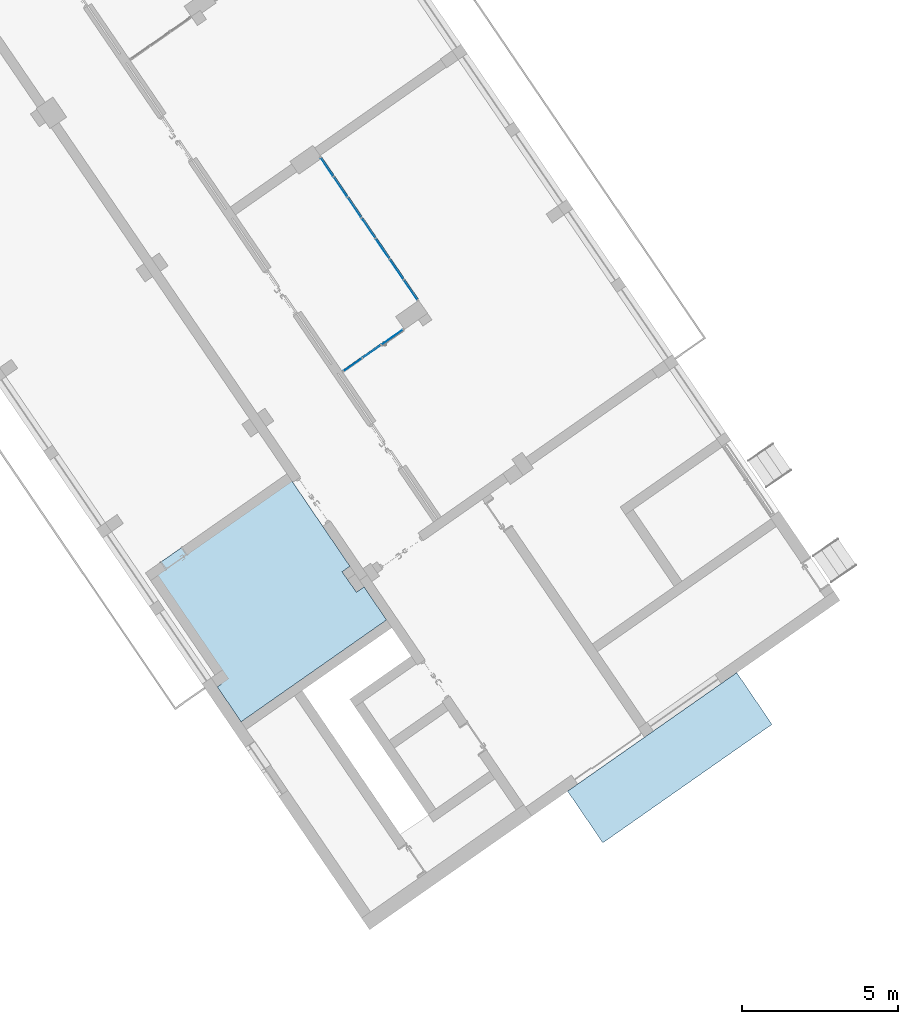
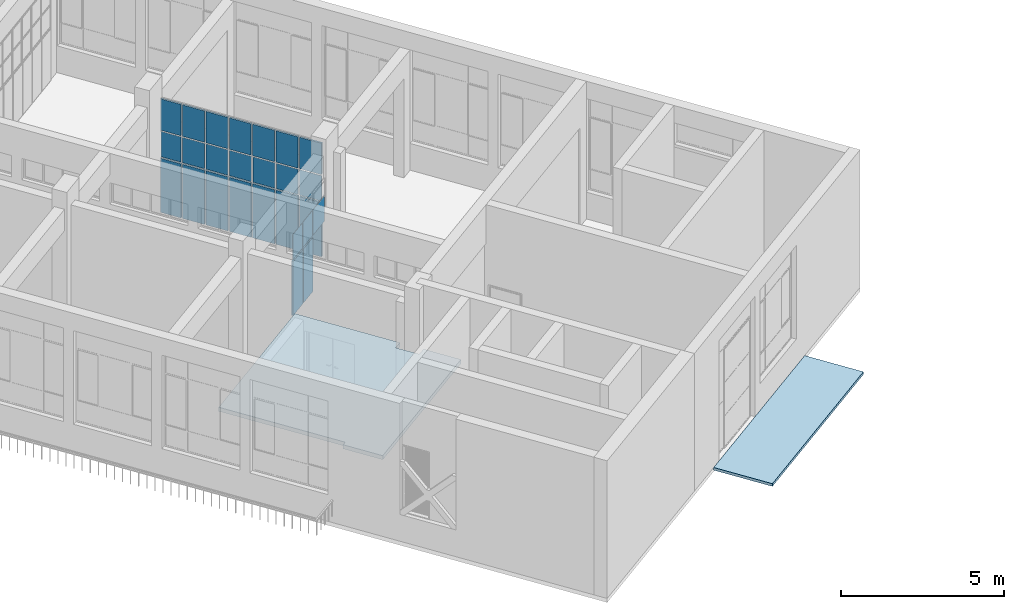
# One storey, part 42 of 157: 26 plates, 2 slabs, 2 elements without a shape of their own.
"""IFC2X3 building model written with IfcOpenShell, lengths in millimetres."""

from ifc_helpers import new_model, entity, si_unit, converted_unit, derived_unit, direction, frame, frame_2d, origin, origin_2d_with_axis, place, context, subcontext, project, spatial, polyline, rectangle, outline, extrude, source, transform, mapped, material, layer, layer_set, layer_usage, type_object, type_shapes, element, aggregate, save


model = new_model("IFC2X3")

# Units and contexts
model_context = context("Model", 3, precision=0.01, world=origin(), true_north=direction((6.123031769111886e-17, 1.0)))
body_context = subcontext(model_context, "Body", "Model", "MODEL_VIEW")
ifc_project = project(units=[si_unit("LENGTHUNIT", "METRE", prefix="MILLI"), si_unit("AREAUNIT", "SQUARE_METRE"), si_unit("VOLUMEUNIT", "CUBIC_METRE"), converted_unit("PLANEANGLEUNIT", "DEGREE", entity("IfcRatioMeasure", 0.017453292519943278), si_unit("PLANEANGLEUNIT", "RADIAN"), dimensions=[0, 0, 0, 0, 0, 0, 0]), si_unit("MASSUNIT", "GRAM", prefix="KILO"), derived_unit("MASSDENSITYUNIT", [(si_unit("MASSUNIT", "GRAM", prefix="KILO"), 1), (si_unit("LENGTHUNIT", "METRE"), -3)]), derived_unit("MOMENTOFINERTIAUNIT", [(si_unit("LENGTHUNIT", "METRE"), 4)]), si_unit("TIMEUNIT", "SECOND"), si_unit("FREQUENCYUNIT", "HERTZ"), si_unit("THERMODYNAMICTEMPERATUREUNIT", "DEGREE_CELSIUS"), derived_unit("THERMALTRANSMITTANCEUNIT", [(si_unit("MASSUNIT", "GRAM", prefix="KILO"), 1), (si_unit("THERMODYNAMICTEMPERATUREUNIT", "KELVIN"), -1), (si_unit("TIMEUNIT", "SECOND"), -3)]), derived_unit("THERMALCONDUCTANCEUNIT", [(si_unit("MASSUNIT", "GRAM", prefix="KILO"), 1), (si_unit("LENGTHUNIT", "METRE"), 1), (si_unit("THERMODYNAMICTEMPERATUREUNIT", "KELVIN"), -1), (si_unit("TIMEUNIT", "SECOND"), -3)]), derived_unit("VOLUMETRICFLOWRATEUNIT", [(si_unit("LENGTHUNIT", "METRE"), 3), (si_unit("TIMEUNIT", "SECOND"), -1)]), derived_unit("MASSFLOWRATEUNIT", [(si_unit("MASSUNIT", "GRAM", prefix="KILO"), 1), (si_unit("TIMEUNIT", "SECOND"), -1)]), derived_unit("ROTATIONALFREQUENCYUNIT", [(si_unit("TIMEUNIT", "SECOND"), -1)]), si_unit("ELECTRICCURRENTUNIT", "AMPERE"), si_unit("ELECTRICVOLTAGEUNIT", "VOLT"), si_unit("POWERUNIT", "WATT"), converted_unit("FORCEUNIT", "KIP", entity("IfcRatioMeasure", 2.088543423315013e-05), si_unit("FORCEUNIT", "NEWTON"), dimensions=[1, 1, -2, 0, 0, 0, 0]), si_unit("ILLUMINANCEUNIT", "LUX"), si_unit("LUMINOUSFLUXUNIT", "LUMEN"), si_unit("LUMINOUSINTENSITYUNIT", "CANDELA"), derived_unit("USERDEFINED", [(si_unit("MASSUNIT", "GRAM", prefix="KILO"), -1), (si_unit("LENGTHUNIT", "METRE"), -2), (si_unit("TIMEUNIT", "SECOND"), 3), (si_unit("LUMINOUSFLUXUNIT", "LUMEN"), 1)]), derived_unit("USERDEFINED", [(si_unit("MASSUNIT", "GRAM", prefix="KILO"), 1), (si_unit("LENGTHUNIT", "METRE"), 3), (si_unit("TIMEUNIT", "SECOND"), -3), (si_unit("ELECTRICCURRENTUNIT", "AMPERE"), -2)]), derived_unit("USERDEFINED", [(si_unit("LENGTHUNIT", "METRE"), 2), (si_unit("TIMEUNIT", "SECOND"), -2)]), derived_unit("SOUNDPOWERUNIT", [(si_unit("MASSUNIT", "GRAM", prefix="KILO"), 1), (si_unit("LENGTHUNIT", "METRE"), 2), (si_unit("TIMEUNIT", "SECOND"), -3)]), derived_unit("SOUNDPRESSUREUNIT", [(si_unit("MASSUNIT", "GRAM", prefix="KILO"), 1), (si_unit("LENGTHUNIT", "METRE"), -1), (si_unit("TIMEUNIT", "SECOND"), -2)]), derived_unit("LINEARVELOCITYUNIT", [(si_unit("LENGTHUNIT", "METRE"), 1), (si_unit("TIMEUNIT", "SECOND"), -1)]), si_unit("PRESSUREUNIT", "PASCAL"), derived_unit("USERDEFINED", [(si_unit("LENGTHUNIT", "METRE"), -2), (si_unit("MASSUNIT", "GRAM", prefix="KILO"), 1), (si_unit("TIMEUNIT", "SECOND"), -2)]), derived_unit("LINEARFORCEUNIT", [(si_unit("MASSUNIT", "GRAM", prefix="KILO"), 1), (si_unit("LENGTHUNIT", "METRE"), 1), (si_unit("TIMEUNIT", "SECOND"), -2), (si_unit("LENGTHUNIT", "METRE"), -1)]), derived_unit("PLANARFORCEUNIT", [(si_unit("MASSUNIT", "GRAM", prefix="KILO"), 1), (si_unit("LENGTHUNIT", "METRE"), 1), (si_unit("TIMEUNIT", "SECOND"), -2), (si_unit("LENGTHUNIT", "METRE"), -2)]), derived_unit("SPECIFICHEATCAPACITYUNIT", [(si_unit("LENGTHUNIT", "METRE"), 2), (si_unit("TIMEUNIT", "SECOND"), -2), (si_unit("THERMODYNAMICTEMPERATUREUNIT", "KELVIN"), -1)]), derived_unit("VAPORPERMEABILITYUNIT", [(si_unit("TIMEUNIT", "SECOND"), 1), (si_unit("LENGTHUNIT", "METRE"), -1)]), derived_unit("DYNAMICVISCOSITYUNIT", [(si_unit("MASSUNIT", "GRAM", prefix="KILO"), 1), (si_unit("LENGTHUNIT", "METRE"), -1), (si_unit("TIMEUNIT", "SECOND"), -1)]), derived_unit("THERMALEXPANSIONCOEFFICIENTUNIT", [(si_unit("THERMODYNAMICTEMPERATUREUNIT", "KELVIN"), -1)])], contexts=[model_context])

# Site, building, storey
site_placement = place(None, frame((0.0, 0.0, 0.0), z_axis=(0.0, 0.0, 1.0), x_axis=(0.8191520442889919, 0.5735764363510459, 0.0)))
site = spatial("IfcSite", under=ifc_project, at=site_placement, Name="Default", CompositionType="ELEMENT")
building_placement = place(site_placement, origin())
building = spatial("IfcBuilding", under=site, at=building_placement, CompositionType="ELEMENT")
storey_placement = place(building_placement, origin())
storey = spatial("IfcBuildingStorey", under=building, at=storey_placement, Name="1.EG +0.00", CompositionType="ELEMENT", Elevation=-4.331468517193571e-12)

# Curtain wall, plates
curtain_wall_type = type_object("IfcCurtainWallType", Name="Curtain Wall:Curtain_Wall_CJC_Int5", PredefinedType="NOTDEFINED")
curtain_wall_1_placement = place(storey_placement, origin())
curtain_wall_1 = element("IfcCurtainWall", 1, at=curtain_wall_1_placement, inside=storey, type_object=curtain_wall_type, Name="Curtain Wall:Curtain_Wall_CJC_Int5", ObjectType="Curtain Wall:Curtain_Wall_CJC_Int5")
ifc_material_1 = material(Name="Default")
plate_type_1 = type_object("IfcPlateType", Name="System Panel:Solid", PredefinedType="CURTAIN_PANEL", material=ifc_material_1)
shared_shape_1 = source(origin(), body_context, "Body", "SweptSolid", [
    extrude(rectangle(XDim=2024.9999999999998, YDim=746.4297457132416, at=frame_2d((20.83333333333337, -8.526512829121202e-14), x_axis=(1.0, 0.0))), frame((0.0, -44.44999999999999, 991.6666666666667), z_axis=(0.0, 1.0, 0.0), x_axis=(0.0, 0.0, 1.0)), (0.0, 0.0, 1.0), 63.5),
])
type_shapes(plate_type_1, [shared_shape_1])
plate_1_placement = place(curtain_wall_1_placement, frame((-211103.34530122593, 68070.02240541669, 50.0), z_axis=(0.0, 0.0, 1.0), x_axis=(0.013317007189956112, 0.9999113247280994, 0.0)))
plate_1 = element("IfcPlate", 2, at=plate_1_placement, type_object=plate_type_1, material=ifc_material_1, Name="System Panel:Solid", ObjectType="System Panel:Solid", context=body_context, shape_type="MappedRepresentation", body=[
    mapped(shared_shape_1, transform((0.0, 0.0, 0.0), scale=1.0)),
])
plate_2_placement = place(curtain_wall_1_placement, frame((-211092.73924057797, 68866.38152735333, 50.0), z_axis=(0.0, 0.0, 1.0), x_axis=(0.013317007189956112, 0.9999113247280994, 0.0)))
plate_2 = element("IfcPlate", 3, at=plate_2_placement, type_object=plate_type_1, material=ifc_material_1, Name="System Panel:Solid", ObjectType="System Panel:Solid", context=body_context, shape_type="MappedRepresentation", body=[
    mapped(shared_shape_1, transform((0.0, 0.0, 0.0), scale=1.0)),
])
plate_3_placement = place(curtain_wall_1_placement, frame((-211082.13317993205, 69662.74064913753, 50.0), z_axis=(0.0, 0.0, 1.0), x_axis=(0.013317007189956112, 0.9999113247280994, 0.0)))
plate_3 = element("IfcPlate", 4, at=plate_3_placement, type_object=plate_type_1, material=ifc_material_1, Name="System Panel:Solid", ObjectType="System Panel:Solid", context=body_context, shape_type="MappedRepresentation", body=[
    mapped(shared_shape_1, transform((0.0, 0.0, 0.0), scale=1.0)),
])
plate_4_placement = place(curtain_wall_1_placement, frame((-211071.52711928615, 70459.09977092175, 50.0), z_axis=(0.0, 0.0, 1.0), x_axis=(0.013317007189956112, 0.9999113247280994, 0.0)))
plate_4 = element("IfcPlate", 5, at=plate_4_placement, type_object=plate_type_1, material=ifc_material_1, Name="System Panel:Solid", ObjectType="System Panel:Solid", context=body_context, shape_type="MappedRepresentation", body=[
    mapped(shared_shape_1, transform((0.0, 0.0, 0.0), scale=1.0)),
])
plate_5_placement = place(curtain_wall_1_placement, frame((-211060.9210586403, 71255.45889270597, 50.0), z_axis=(0.0, 0.0, 1.0), x_axis=(0.013317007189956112, 0.9999113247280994, 0.0)))
plate_5 = element("IfcPlate", 6, at=plate_5_placement, type_object=plate_type_1, material=ifc_material_1, Name="System Panel:Solid", ObjectType="System Panel:Solid", context=body_context, shape_type="MappedRepresentation", body=[
    mapped(shared_shape_1, transform((0.0, 0.0, 0.0), scale=1.0)),
])
plate_6_placement = place(curtain_wall_1_placement, frame((-211050.3149979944, 72051.8180144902, 50.0), z_axis=(0.0, 0.0, 1.0), x_axis=(0.013317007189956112, 0.9999113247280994, 0.0)))
plate_6 = element("IfcPlate", 7, at=plate_6_placement, type_object=plate_type_1, material=ifc_material_1, Name="System Panel:Solid", ObjectType="System Panel:Solid", context=body_context, shape_type="MappedRepresentation", body=[
    mapped(shared_shape_1, transform((0.0, 0.0, 0.0), scale=1.0)),
])
plate_type_2 = type_object("IfcPlateType", Name="System Panel:Solid", PredefinedType="CURTAIN_PANEL", material=ifc_material_1)
shared_shape_2 = source(origin(), body_context, "Body", "SweptSolid", [
    extrude(rectangle(XDim=2025.0000000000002, YDim=696.42974571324, at=frame_2d((20.83333333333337, 1.9895196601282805e-13), x_axis=(1.0, 0.0))), frame((0.0, -44.44999999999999, 991.6666666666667), z_axis=(0.0, 1.0, 0.0), x_axis=(0.0, 0.0, 1.0)), (0.0, 0.0, 1.0), 63.5),
])
type_shapes(plate_type_2, [shared_shape_2])
plate_7_placement = place(curtain_wall_1_placement, frame((-211040.04186252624, 72823.17935330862, 50.0), z_axis=(0.0, 0.0, 1.0), x_axis=(0.013317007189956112, 0.9999113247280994, 0.0)))
plate_7 = element("IfcPlate", 8, at=plate_7_placement, type_object=plate_type_2, material=ifc_material_1, Name="System Panel:Solid", ObjectType="System Panel:Solid", context=body_context, shape_type="MappedRepresentation", body=[
    mapped(shared_shape_2, transform((0.0, 0.0, 0.0), scale=1.0)),
])
ifc_material_2 = material(Name="Glass")
plate_type_3 = type_object("IfcPlateType", Name="System Panel:Glazed_CJC", PredefinedType="CURTAIN_PANEL", material=ifc_material_2)
shared_shape_3 = source(origin(), body_context, "Body", "SweptSolid", [
    extrude(rectangle(XDim=10.0, YDim=746.4297457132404, at=frame_2d((0.0, 2.5579538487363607e-13), x_axis=(1.0, 0.0))), frame((0.0, 0.0, 0.0), z_axis=(0.0, 0.0, 1.0), x_axis=(0.0, 1.0, 0.0)), (0.0, 0.0, 1.0), 950.0000000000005),
])
type_shapes(plate_type_3, [shared_shape_3])
plate_8_placement = place(curtain_wall_1_placement, frame((-211103.34530122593, 68070.02240541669, 2125.0), z_axis=(0.0, 0.0, 1.0), x_axis=(0.013317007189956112, 0.9999113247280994, 0.0)))
plate_8 = element("IfcPlate", 9, at=plate_8_placement, type_object=plate_type_3, material=ifc_material_2, Name="System Panel:Glazed_CJC", ObjectType="System Panel:Glazed_CJC", context=body_context, shape_type="MappedRepresentation", body=[
    mapped(shared_shape_3, transform((0.0, 0.0, 0.0), scale=1.0)),
])
plate_9_placement = place(curtain_wall_1_placement, frame((-211092.73924057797, 68866.38152735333, 2125.0), z_axis=(0.0, 0.0, 1.0), x_axis=(0.013317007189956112, 0.9999113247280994, 0.0)))
plate_9 = element("IfcPlate", 10, at=plate_9_placement, type_object=plate_type_3, material=ifc_material_2, Name="System Panel:Glazed_CJC", ObjectType="System Panel:Glazed_CJC", context=body_context, shape_type="MappedRepresentation", body=[
    mapped(shared_shape_3, transform((0.0, 0.0, 0.0), scale=1.0)),
])
plate_10_placement = place(curtain_wall_1_placement, frame((-211082.13317993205, 69662.74064913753, 2125.0), z_axis=(0.0, 0.0, 1.0), x_axis=(0.013317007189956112, 0.9999113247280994, 0.0)))
plate_10 = element("IfcPlate", 11, at=plate_10_placement, type_object=plate_type_3, material=ifc_material_2, Name="System Panel:Glazed_CJC", ObjectType="System Panel:Glazed_CJC", context=body_context, shape_type="MappedRepresentation", body=[
    mapped(shared_shape_3, transform((0.0, 0.0, 0.0), scale=1.0)),
])
plate_11_placement = place(curtain_wall_1_placement, frame((-211071.52711928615, 70459.09977092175, 2125.0), z_axis=(0.0, 0.0, 1.0), x_axis=(0.013317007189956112, 0.9999113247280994, 0.0)))
plate_11 = element("IfcPlate", 12, at=plate_11_placement, type_object=plate_type_3, material=ifc_material_2, Name="System Panel:Glazed_CJC", ObjectType="System Panel:Glazed_CJC", context=body_context, shape_type="MappedRepresentation", body=[
    mapped(shared_shape_3, transform((0.0, 0.0, 0.0), scale=1.0)),
])
plate_12_placement = place(curtain_wall_1_placement, frame((-211060.9210586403, 71255.45889270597, 2125.0), z_axis=(0.0, 0.0, 1.0), x_axis=(0.013317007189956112, 0.9999113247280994, 0.0)))
plate_12 = element("IfcPlate", 13, at=plate_12_placement, type_object=plate_type_3, material=ifc_material_2, Name="System Panel:Glazed_CJC", ObjectType="System Panel:Glazed_CJC", context=body_context, shape_type="MappedRepresentation", body=[
    mapped(shared_shape_3, transform((0.0, 0.0, 0.0), scale=1.0)),
])
plate_13_placement = place(curtain_wall_1_placement, frame((-211050.3149979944, 72051.8180144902, 2125.0), z_axis=(0.0, 0.0, 1.0), x_axis=(0.013317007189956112, 0.9999113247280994, 0.0)))
plate_13 = element("IfcPlate", 14, at=plate_13_placement, type_object=plate_type_3, material=ifc_material_2, Name="System Panel:Glazed_CJC", ObjectType="System Panel:Glazed_CJC", context=body_context, shape_type="MappedRepresentation", body=[
    mapped(shared_shape_3, transform((0.0, 0.0, 0.0), scale=1.0)),
])
plate_type_4 = type_object("IfcPlateType", Name="System Panel:Glazed_CJC", PredefinedType="CURTAIN_PANEL", material=ifc_material_2)
shared_shape_4 = source(origin(), body_context, "Body", "SweptSolid", [
    extrude(rectangle(XDim=10.0, YDim=696.4297457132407, at=frame_2d((0.0, -1.9895196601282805e-13), x_axis=(1.0, 0.0))), frame((0.0, 0.0, 0.0), z_axis=(0.0, 0.0, 1.0), x_axis=(0.0, 1.0, 0.0)), (0.0, 0.0, 1.0), 950.0000000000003),
])
type_shapes(plate_type_4, [shared_shape_4])
plate_14_placement = place(curtain_wall_1_placement, frame((-211040.04186252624, 72823.17935330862, 2125.0), z_axis=(0.0, 0.0, 1.0), x_axis=(0.013317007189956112, 0.9999113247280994, 0.0)))
plate_14 = element("IfcPlate", 15, at=plate_14_placement, type_object=plate_type_4, material=ifc_material_2, Name="System Panel:Glazed_CJC", ObjectType="System Panel:Glazed_CJC", context=body_context, shape_type="MappedRepresentation", body=[
    mapped(shared_shape_4, transform((0.0, 0.0, 0.0), scale=1.0)),
])
plate_type_5 = type_object("IfcPlateType", Name="System Panel:Solid", PredefinedType="CURTAIN_PANEL", material=ifc_material_1)
shared_shape_5 = source(origin(), body_context, "Body", "SweptSolid", [
    extrude(rectangle(XDim=1175.0000000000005, YDim=746.4297457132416, at=frame_2d((20.8333333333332, -8.526512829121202e-14), x_axis=(1.0, 0.0))), frame((0.0, -44.44999999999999, 566.666666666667), z_axis=(0.0, 1.0, 0.0), x_axis=(0.0, 0.0, 1.0)), (0.0, 0.0, 1.0), 63.5),
])
type_shapes(plate_type_5, [shared_shape_5])
plate_15_placement = place(curtain_wall_1_placement, frame((-211103.34530122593, 68070.02240541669, 3125.0), z_axis=(0.0, 0.0, 1.0), x_axis=(0.013317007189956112, 0.9999113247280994, 0.0)))
plate_15 = element("IfcPlate", 16, at=plate_15_placement, type_object=plate_type_5, material=ifc_material_1, Name="System Panel:Solid", ObjectType="System Panel:Solid", context=body_context, shape_type="MappedRepresentation", body=[
    mapped(shared_shape_5, transform((0.0, 0.0, 0.0), scale=1.0)),
])
plate_16_placement = place(curtain_wall_1_placement, frame((-211092.73924057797, 68866.38152735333, 3125.0), z_axis=(0.0, 0.0, 1.0), x_axis=(0.013317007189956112, 0.9999113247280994, 0.0)))
plate_16 = element("IfcPlate", 17, at=plate_16_placement, type_object=plate_type_5, material=ifc_material_1, Name="System Panel:Solid", ObjectType="System Panel:Solid", context=body_context, shape_type="MappedRepresentation", body=[
    mapped(shared_shape_5, transform((0.0, 0.0, 0.0), scale=1.0)),
])
plate_17_placement = place(curtain_wall_1_placement, frame((-211082.13317993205, 69662.74064913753, 3125.0), z_axis=(0.0, 0.0, 1.0), x_axis=(0.013317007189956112, 0.9999113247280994, 0.0)))
plate_17 = element("IfcPlate", 18, at=plate_17_placement, type_object=plate_type_5, material=ifc_material_1, Name="System Panel:Solid", ObjectType="System Panel:Solid", context=body_context, shape_type="MappedRepresentation", body=[
    mapped(shared_shape_5, transform((0.0, 0.0, 0.0), scale=1.0)),
])
plate_18_placement = place(curtain_wall_1_placement, frame((-211071.52711928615, 70459.09977092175, 3125.0), z_axis=(0.0, 0.0, 1.0), x_axis=(0.013317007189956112, 0.9999113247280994, 0.0)))
plate_18 = element("IfcPlate", 19, at=plate_18_placement, type_object=plate_type_5, material=ifc_material_1, Name="System Panel:Solid", ObjectType="System Panel:Solid", context=body_context, shape_type="MappedRepresentation", body=[
    mapped(shared_shape_5, transform((0.0, 0.0, 0.0), scale=1.0)),
])
plate_19_placement = place(curtain_wall_1_placement, frame((-211060.9210586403, 71255.45889270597, 3125.0), z_axis=(0.0, 0.0, 1.0), x_axis=(0.013317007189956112, 0.9999113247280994, 0.0)))
plate_19 = element("IfcPlate", 20, at=plate_19_placement, type_object=plate_type_5, material=ifc_material_1, Name="System Panel:Solid", ObjectType="System Panel:Solid", context=body_context, shape_type="MappedRepresentation", body=[
    mapped(shared_shape_5, transform((0.0, 0.0, 0.0), scale=1.0)),
])
plate_20_placement = place(curtain_wall_1_placement, frame((-211050.3149979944, 72051.8180144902, 3125.0), z_axis=(0.0, 0.0, 1.0), x_axis=(0.013317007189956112, 0.9999113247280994, 0.0)))
plate_20 = element("IfcPlate", 21, at=plate_20_placement, type_object=plate_type_5, material=ifc_material_1, Name="System Panel:Solid", ObjectType="System Panel:Solid", context=body_context, shape_type="MappedRepresentation", body=[
    mapped(shared_shape_5, transform((0.0, 0.0, 0.0), scale=1.0)),
])
plate_type_6 = type_object("IfcPlateType", Name="System Panel:Solid", PredefinedType="CURTAIN_PANEL", material=ifc_material_1)
shared_shape_6 = source(origin(), body_context, "Body", "SweptSolid", [
    extrude(rectangle(XDim=1175.0000000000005, YDim=696.42974571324, at=frame_2d((20.833333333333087, 1.9895196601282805e-13), x_axis=(1.0, 0.0))), frame((0.0, -44.44999999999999, 566.6666666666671), z_axis=(0.0, 1.0, 0.0), x_axis=(0.0, 0.0, 1.0)), (0.0, 0.0, 1.0), 63.5),
])
type_shapes(plate_type_6, [shared_shape_6])
plate_21_placement = place(curtain_wall_1_placement, frame((-211040.04186252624, 72823.17935330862, 3125.0), z_axis=(0.0, 0.0, 1.0), x_axis=(0.013317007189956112, 0.9999113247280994, 0.0)))
plate_21 = element("IfcPlate", 22, at=plate_21_placement, type_object=plate_type_6, material=ifc_material_1, Name="System Panel:Solid", ObjectType="System Panel:Solid", context=body_context, shape_type="MappedRepresentation", body=[
    mapped(shared_shape_6, transform((0.0, 0.0, 0.0), scale=1.0)),
])
aggregate(curtain_wall_1, [plate_1, plate_2, plate_3, plate_4, plate_5, plate_6, plate_7, plate_8, plate_9, plate_10, plate_11, plate_12, plate_13, plate_14, plate_15, plate_16, plate_17, plate_18, plate_19, plate_20, plate_21])

curtain_wall_2_placement = place(storey_placement, origin())
curtain_wall_2 = element("IfcCurtainWall", 23, at=curtain_wall_2_placement, inside=storey, type_object=curtain_wall_type, Name="Curtain Wall:Curtain_Wall_CJC_Int5", ObjectType="Curtain Wall:Curtain_Wall_CJC_Int5")
plate_type_7 = type_object("IfcPlateType", Name="System Panel:Solid", PredefinedType="CURTAIN_PANEL", material=ifc_material_1)
shared_shape_7 = source(origin(), body_context, "Body", "SweptSolid", [
    extrude(rectangle(XDim=2025.0000000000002, YDim=701.0338390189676, at=frame_2d((20.833333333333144, 0.0), x_axis=(1.0, 0.0))), frame((0.0, -19.050000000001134, 991.6666666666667), z_axis=(0.0, 1.0, 0.0), x_axis=(0.0, 0.0, 1.0)), (0.0, 0.0, 1.0), 63.5),
])
type_shapes(plate_type_7, [shared_shape_7])
plate_22_placement = place(curtain_wall_2_placement, frame((-213989.7689333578, 67171.35891435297, 50.0)))
plate_22 = element("IfcPlate", 24, at=plate_22_placement, type_object=plate_type_7, material=ifc_material_1, Name="System Panel:Solid", ObjectType="System Panel:Solid", context=body_context, shape_type="MappedRepresentation", body=[
    mapped(shared_shape_7, transform((0.0, 0.0, 0.0), scale=1.0)),
])
plate_type_8 = type_object("IfcPlateType", Name="System Panel:Solid", PredefinedType="CURTAIN_PANEL", material=ifc_material_1)
shared_shape_8 = source(origin(), body_context, "Body", "SweptSolid", [
    extrude(rectangle(XDim=2024.9999999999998, YDim=677.0676777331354, at=frame_2d((20.833333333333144, 0.0), x_axis=(1.0, 0.0))), frame((0.0, -19.049999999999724, 991.6666666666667), z_axis=(0.0, 1.0, 0.0), x_axis=(0.0, 0.0, 1.0)), (0.0, 0.0, 1.0), 63.5),
])
type_shapes(plate_type_8, [shared_shape_8])
plate_23_placement = place(curtain_wall_2_placement, frame((-213250.71817498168, 67171.35891435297, 50.0)))
plate_23 = element("IfcPlate", 25, at=plate_23_placement, type_object=plate_type_8, material=ifc_material_1, Name="System Panel:Solid", ObjectType="System Panel:Solid", context=body_context, shape_type="MappedRepresentation", body=[
    mapped(shared_shape_8, transform((0.0, 0.0, 0.0), scale=1.0)),
])
plate_type_9 = type_object("IfcPlateType", Name="System Panel:Glazed_CJC", PredefinedType="CURTAIN_PANEL", material=ifc_material_2)
shared_shape_9 = source(origin(), body_context, "Body", "SweptSolid", [
    extrude(rectangle(XDim=10.0, YDim=701.0338390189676, at=origin_2d_with_axis()), frame((0.0, 0.0, 0.0), z_axis=(0.0, 0.0, 1.0), x_axis=(0.0, 1.0, 0.0)), (0.0, 0.0, 1.0), 950.0000000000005),
])
type_shapes(plate_type_9, [shared_shape_9])
plate_24_placement = place(curtain_wall_2_placement, frame((-213989.7689333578, 67171.35891435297, 2125.0)))
plate_24 = element("IfcPlate", 26, at=plate_24_placement, type_object=plate_type_9, material=ifc_material_2, Name="System Panel:Glazed_CJC", ObjectType="System Panel:Glazed_CJC", context=body_context, shape_type="MappedRepresentation", body=[
    mapped(shared_shape_9, transform((0.0, 0.0, 0.0), scale=1.0)),
])
plate_type_10 = type_object("IfcPlateType", Name="System Panel:Glazed_CJC", PredefinedType="CURTAIN_PANEL", material=ifc_material_2)
shared_shape_10 = source(origin(), body_context, "Body", "SweptSolid", [
    extrude(rectangle(XDim=10.0, YDim=677.0676777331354, at=origin_2d_with_axis()), frame((0.0, 0.0, 0.0), z_axis=(0.0, 0.0, 1.0), x_axis=(0.0, 1.0, 0.0)), (0.0, 0.0, 1.0), 950.0000000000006),
])
type_shapes(plate_type_10, [shared_shape_10])
plate_25_placement = place(curtain_wall_2_placement, frame((-213250.71817498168, 67171.35891435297, 2125.0)))
plate_25 = element("IfcPlate", 27, at=plate_25_placement, type_object=plate_type_10, material=ifc_material_2, Name="System Panel:Glazed_CJC", ObjectType="System Panel:Glazed_CJC", context=body_context, shape_type="MappedRepresentation", body=[
    mapped(shared_shape_10, transform((0.0, 0.0, 0.0), scale=1.0)),
])
plate_type_11 = type_object("IfcPlateType", Name="System Panel:Glazed_CJC", PredefinedType="CURTAIN_PANEL", material=ifc_material_2)
shared_shape_11 = source(origin(), body_context, "Body", "SweptSolid", [
    extrude(rectangle(XDim=10.0, YDim=824.9999999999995, at=origin_2d_with_axis()), frame((0.0, 0.0, 0.0), z_axis=(0.0, 0.0, 1.0), x_axis=(0.0, 1.0, 0.0)), (0.0, 0.0, 1.0), 950.0000000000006),
])
type_shapes(plate_type_11, [shared_shape_11])
plate_26_placement = place(curtain_wall_2_placement, frame((-212449.68433611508, 67171.35891435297, 2125.0)))
plate_26 = element("IfcPlate", 28, at=plate_26_placement, type_object=plate_type_11, material=ifc_material_2, Name="System Panel:Glazed_CJC", ObjectType="System Panel:Glazed_CJC", context=body_context, shape_type="MappedRepresentation", body=[
    mapped(shared_shape_11, transform((0.0, 0.0, 0.0), scale=1.0)),
])
aggregate(curtain_wall_2, [plate_22, plate_23, plate_24, plate_25, plate_26])

# Slabs
ifc_material_3 = material(Name="Analytical Floor Surface_CJC")
ifc_layer_1 = layer(ifc_material_3, 150.0)
ifc_layer_set_1 = layer_set([ifc_layer_1], Name="Floor:Boden_CJC")
ifc_layer_usage_1 = layer_usage(ifc_layer_set_1, "AXIS3", "POSITIVE", 0.0)
slab_type_1 = type_object("IfcSlabType", Name="Floor:Boden_CJC", PredefinedType="FLOOR", material=ifc_layer_set_1)
slab_1_placement = place(storey_placement, origin())
element("IfcSlab", 29, at=slab_1_placement, inside=storey, type_object=slab_type_1, material=ifc_layer_usage_1, Name="Floor:Boden_CJC", ObjectType="Floor:Boden_CJC", PredefinedType="FLOOR", context=body_context, shape_type="SweptSolid", body=[
    extrude(outline(polyline([(-2274.1166337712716, -2070.952778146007), (3401.3945715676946, -2070.952778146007), (3384.2082357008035, -720.9527781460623), (3233.687875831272, -720.952778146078), (3178.881290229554, 3581.8550425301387), (-2346.118709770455, 3581.85504253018), (-2300.559197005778, 5.025256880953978), (-1993.504078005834, 5.025256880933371), (-1993.504078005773, -794.9747431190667), (-2290.3692767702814, -794.9747431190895), (-2274.1166337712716, -2070.952778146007)])), frame((-220057.5520548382, 61942.31169249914, 2750.0), z_axis=(0.0, 0.0, -1.0), x_axis=(-1.0, 0.0, 0.0)), (0.0, 0.0, 1.0), 150.0),
])
ifc_layer_2 = layer(ifc_material_3, 100.0)
ifc_layer_set_2 = layer_set([ifc_layer_2], Name="Floor:Boden_Rampe_CJC")
ifc_layer_usage_2 = layer_usage(ifc_layer_set_2, "AXIS3", "POSITIVE", 0.0)
slab_type_2 = type_object("IfcSlabType", Name="Floor:Boden_Rampe_CJC", PredefinedType="FLOOR", material=ifc_layer_set_2)
slab_2_placement = place(storey_placement, origin())
element("IfcSlab", 30, at=slab_2_placement, inside=storey, type_object=slab_type_2, material=ifc_layer_usage_2, Name="Floor:Boden_Rampe_CJC", ObjectType="Floor:Boden_Rampe_CJC", PredefinedType="FLOOR", context=body_context, shape_type="SweptSolid", body=[
    extrude(outline(polyline([(-3287.536783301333, -1000.0), (3312.9980216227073, -1000.0), (3287.5367833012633, 1000.0), (-3312.9980216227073, 1000.0), (-3287.536783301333, -1000.0)])), frame((-212895.11106857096, 51071.358914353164, 0.0), z_axis=(0.0, 0.0, -1.0), x_axis=(-1.0, 0.0, 0.0)), (0.0, 0.0, 1.0), 100.0),
])

save(model, "model.ifc")
